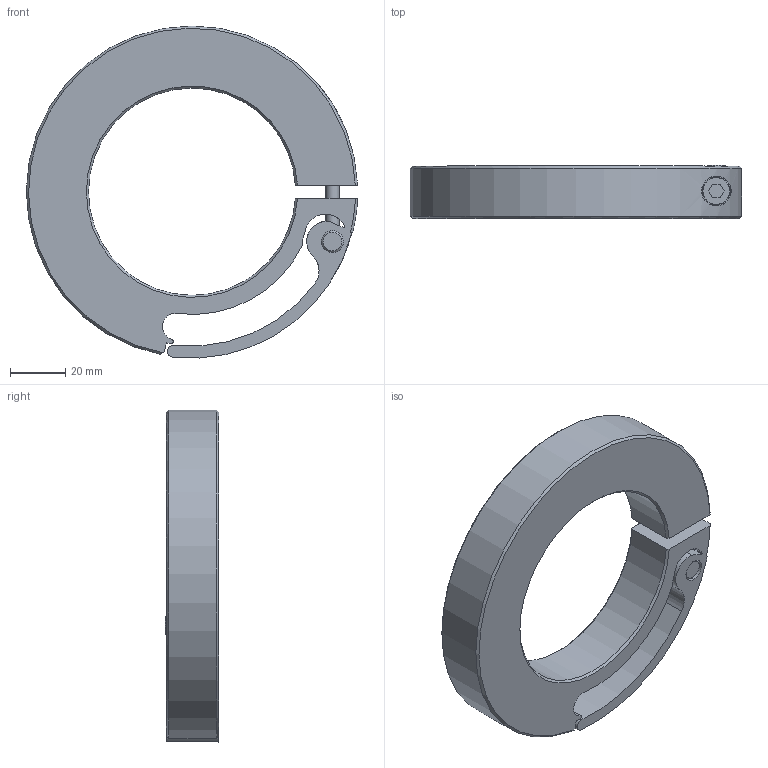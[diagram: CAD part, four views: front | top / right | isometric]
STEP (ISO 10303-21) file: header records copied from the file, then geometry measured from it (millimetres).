
FILE_DESCRIPTION((''),'2;1');
FILE_NAME('MQCL-75-A','2016-09-09T',('SYSTEM'),(''),'PRO/ENGINEER BY PARAMETRIC TECHNOLOGY CORPORATION, 2015110','PRO/ENGINEER BY PARAMETRIC TECHNOLOGY CORPORATION, 2015110','');
FILE_SCHEMA(('AUTOMOTIVE_DESIGN { 1 0 10303 214 1 1 1 1 }'));
Length unit declared in the file: metre
Products named in the file (1): MQCL-75-A
Bounding box: 119.95 x 19.43 x 120.21 mm (x, y, z)
Volume: 111481.4 mm3; surface area: 29767.4 mm2
Topology: 1 solids, 1 shells, 81 faces, 238 edges, 162 vertices
Faces by surface type: cylinder 40, plane 25, cone 16
Entity records: 3485 total; most frequent: CARTESIAN_POINT 758, DIRECTION 479, ORIENTED_EDGE 476, EDGE_CURVE 238, AXIS2_PLACEMENT_3D 192, VERTEX_POINT 162, CIRCLE 111, VECTOR 95
